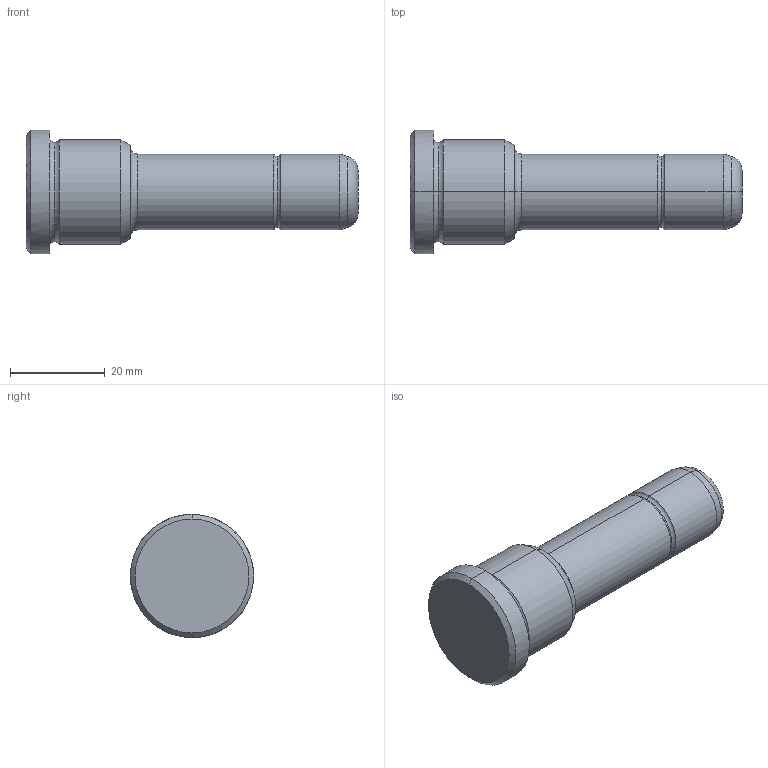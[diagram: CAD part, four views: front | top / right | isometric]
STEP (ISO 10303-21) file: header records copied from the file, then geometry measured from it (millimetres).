
FILE_DESCRIPTION(('CATIA V5 STEP Exchange'),'2;1');
FILE_NAME('C:\Users\Utente\Desktop\IO LAVORO\3D X SITO CF\X SITO\PLASTICA\351\351-16X22X70.stp','2021-08-18T10:58:13+00:00',('none'),('none'),'CATIA Version 5 Release 20 GA (IN-10)','CATIA V5 STEP AP203','none');
FILE_SCHEMA(('CONFIG_CONTROL_DESIGN'));
Length unit declared in the file: millimetre
Products named in the file (1): 351-16X22X70
Bounding box: 70 x 26 x 26 mm (x, y, z)
Volume: 18456.3 mm3; surface area: 4861.1 mm2
Topology: 1 solids, 1 shells, 30 faces, 86 edges, 60 vertices
Faces by surface type: torus 12, cylinder 8, cone 6, plane 4
Entity records: 1112 total; most frequent: CARTESIAN_POINT 289, ORIENTED_EDGE 172, DIRECTION 138, AXIS2_PLACEMENT_3D 95, EDGE_CURVE 86, CIRCLE 64, VERTEX_POINT 60, EDGE_LOOP 32
